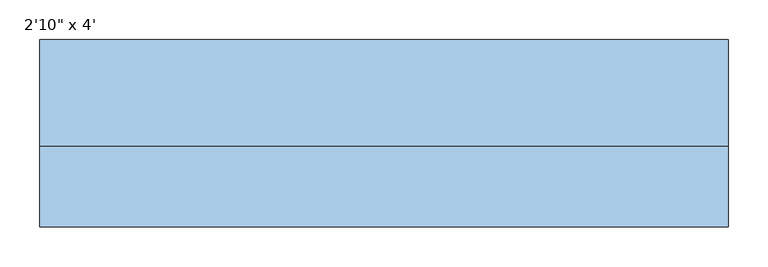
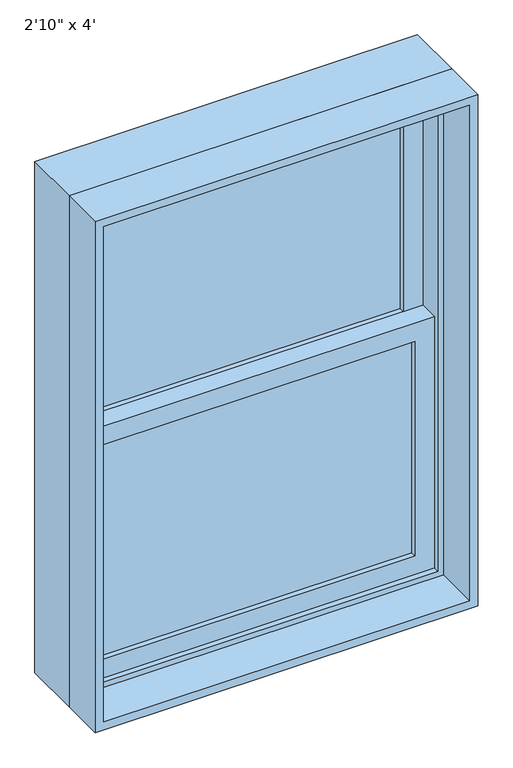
"""IFC4 building model written with IfcOpenShell, lengths in millimetres: window geometry."""

from ifc_helpers import new_model, si_unit, frame, origin, place, context, project, spatial, polyline, outline, extrude, source, transform, mapped, element, save


def window_0332ee5e(model_context):
    return source(origin(), model_context, "Body", "SweptSolid", [
        extrude(outline(polyline([(355.6, 38.1), (355.6, 31.75), (-355.6, 31.75), (-355.6, 38.1), (355.6, 38.1)])), frame((0.0, 0.0, 990.6), z_axis=(0.0, 0.0, 1.0), x_axis=(1.0, 0.0, 0.0)), (0.0, 0.0, 1.0), 511.175),
        extrude(outline(polyline([(-355.6, 25.4), (355.6, 25.4), (355.6, 19.05), (-355.6, 19.05), (-355.6, 25.4)])), frame((0.0, 0.0, 990.6), z_axis=(0.0, 0.0, 1.0), x_axis=(1.0, 0.0, 0.0)), (0.0, 0.0, 1.0), 511.175),
        extrude(outline(polyline([(355.6, 82.55), (355.6, 76.2), (-355.6, 76.2), (-355.6, 82.55), (355.6, 82.55)])), frame((0.0, 0.0, 1546.225), z_axis=(0.0, 0.0, 1.0), x_axis=(1.0, 0.0, 0.0)), (0.0, 0.0, 1.0), 511.175),
        extrude(outline(polyline([(-355.6, 69.85), (355.6, 69.85), (355.6, 63.5), (-355.6, 63.5), (-355.6, 69.85)])), frame((0.0, 0.0, 1546.225), z_axis=(0.0, 0.0, 1.0), x_axis=(1.0, 0.0, 0.0)), (0.0, 0.0, 1.0), 511.175),
        extrude(outline(polyline([(1546.225, -400.05), (946.15, -400.05), (946.15, 400.05), (1546.225, 400.05), (1546.225, -400.05)]), holes=[polyline([(1501.775, 355.6), (990.6, 355.6), (990.6, -355.6), (1501.775, -355.6), (1501.775, 355.6)])]), frame((0.0, 6.35, 0.0), z_axis=(0.0, 1.0, 0.0), x_axis=(0.0, 0.0, 1.0)), (0.0, 0.0, 1.0), 44.45),
        extrude(outline(polyline([(2101.85, -400.05), (1501.775, -400.05), (1501.775, 400.05), (2101.85, 400.05), (2101.85, -400.05)]), holes=[polyline([(2057.4, 355.6), (1546.225, 355.6), (1546.225, -355.6), (2057.4, -355.6), (2057.4, 355.6)])]), frame((0.0, 50.8, 0.0), z_axis=(0.0, 1.0, 0.0), x_axis=(0.0, 0.0, 1.0)), (0.0, 0.0, 1.0), 44.45),
        extrude(outline(polyline([(2133.6, -431.8), (914.4, -431.8), (914.4, 431.8), (2133.6, 431.8), (2133.6, -431.8)]), holes=[polyline([(2101.85, 400.05), (946.15, 400.05), (946.15, -400.05), (2101.85, -400.05), (2101.85, 400.05)])]), frame((0.0, -6.35, 0.0), z_axis=(0.0, 1.0, 0.0), x_axis=(0.0, 0.0, 1.0)), (0.0, 0.0, 1.0), 133.35),
        extrude(outline(polyline([(2133.6, 431.8), (2133.6, -431.8), (914.4, -431.8), (914.4, 431.8), (2133.6, 431.8)]), holes=[polyline([(2114.55, 412.75), (933.45, 412.75), (933.45, -412.75), (2114.55, -412.75), (2114.55, 412.75)])]), frame((0.0, -107.95, 0.0), z_axis=(0.0, 1.0, 0.0), x_axis=(0.0, 0.0, 1.0)), (0.0, 0.0, 1.0), 101.6),
    ])


if __name__ == "__main__":
    model = new_model("IFC4")
    model_context = context("Model", 3, world=origin())
    ifc_project = project(units=[si_unit("LENGTHUNIT", "METRE", prefix="MILLI")], contexts=[model_context])
    site = spatial("IfcSite", under=ifc_project)
    building = spatial("IfcBuilding", under=site)
    placement = place(None, origin())
    window_shape = window_0332ee5e(model_context)
    element("IfcWindow", 1, ObjectType="Planitar-Double-Hung-Single : 2'10\" x 4'", at=placement, inside=building, context=model_context, shape_type="MappedRepresentation", body=[
        mapped(window_shape, transform((0.0, 0.0, 0.0), x_axis=(1.0, 0.0, 0.0), y_axis=(0.0, 1.0, 0.0), z_axis=(0.0, 0.0, 1.0))),
    ])
    save(model, "model.ifc")
